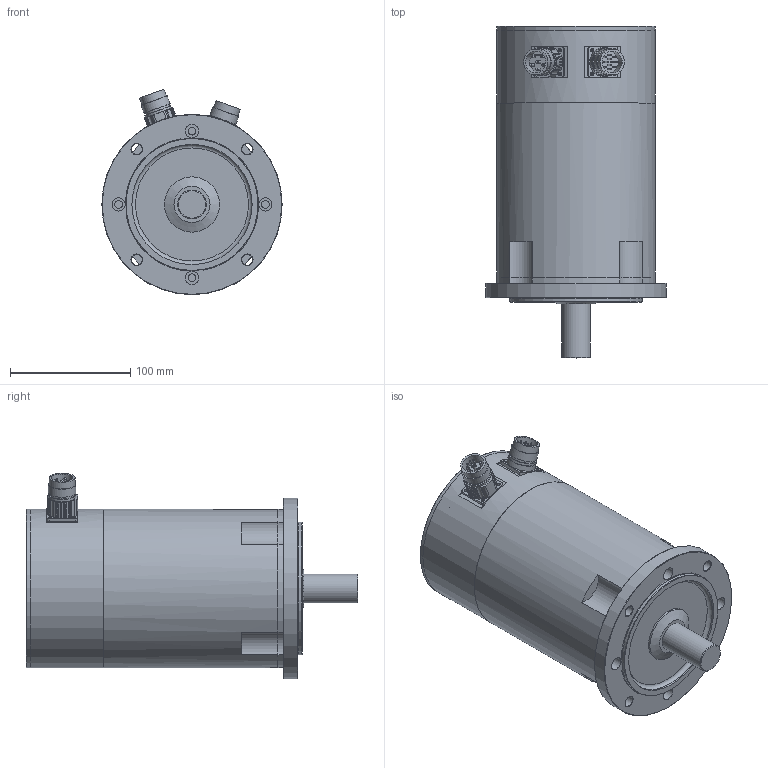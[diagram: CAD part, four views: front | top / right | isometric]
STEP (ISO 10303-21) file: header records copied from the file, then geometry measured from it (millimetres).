
FILE_DESCRIPTION(/* description */ (''),/* implementation_level */ '2;1');
FILE_NAME(/* name */ 'ksy_4612e_r4',/* time_stamp */ '2007-03-19T07:32:29+01:00',/* author */ (''),/* organization */ (''),/* preprocessor_version */ 'ST-DEVELOPER v8',/* originating_system */ 'UNIGRAPHICS SOLUTIONS - UNIGRAPHICS 18.0',/* authorisation */ '');
FILE_SCHEMA (('AUTOMOTIVE_DESIGN { 1 2 10303 214 0 1 1 1 }'));
Length unit declared in the file: millimetre
Products named in the file (10): 014261_0; 014260_0; 06330101_0; DIN3760_org_A25x40x7_0; Rotor_SY 46.. E_0; 064263_0; 114118_0; Gehaeuse_SY 46.. E_0; 114119_0; KSY464_E-R4_0
Assembly tree (9 placements, depth 2):
  KSY464_E-R4_0
    114119_0
    Gehaeuse_SY 46.. E_0
    114118_0
    064263_0
    Rotor_SY 46.. E_0
    DIN3760_org_A25x40x7_0
    06330101_0
    014260_0
    014261_0
Bounding box: 150 x 276 x 170.77 mm (x, y, z)
Volume: 2051714.7 mm3; surface area: 298575.8 mm2
Topology: 9 solids, 9 shells, 415 faces, 1034 edges, 663 vertices
Faces by surface type: cylinder 216, plane 104, cone 58, sphere 20, torus 17
Full cylindrical faces by diameter (mm): 1 x16, 2 x4, 2.135 x8, 2.7 x8, 3.013 x7, 4.5 x7, 5.5 x4, 6.5 x4, 8 x7, 9 x4, 10 x4, 11 x4, 14 x1, 18 x2, 20 x4, 21 x2, 21.5 x2, 23 x5, 23.52 x1, 23.9 x1, 24 x2, 25 x2, 25.3 x1, 30 x1, 33 x1, 36.83 x1, 37 x1, 40 x3, 42 x1, 43 x1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
Entity records: 10868 total; most frequent: DIRECTION 2049, CARTESIAN_POINT 1754, ORIENTED_EDGE 1370, AXIS2_PLACEMENT_3D 952, EDGE_LOOP 755, EDGE_CURVE 685, VERTEX_POINT 567, CIRCLE 527
